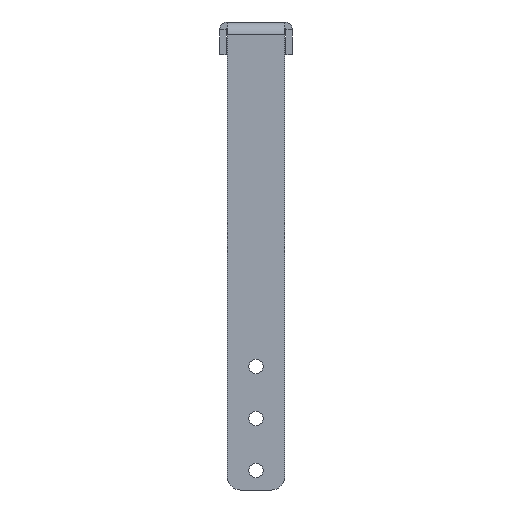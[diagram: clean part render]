
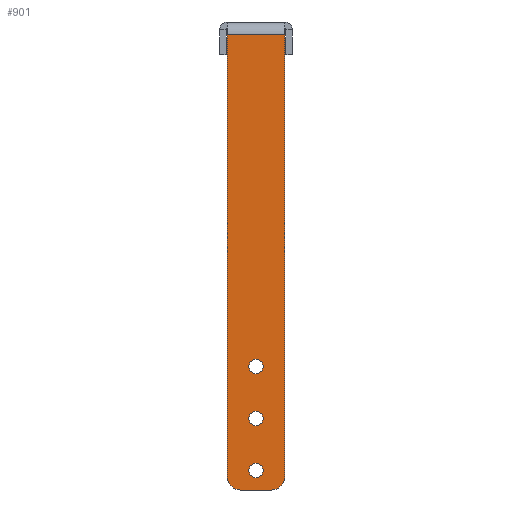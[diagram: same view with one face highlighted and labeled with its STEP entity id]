
A CAD part, left-side view. The second image highlights one B-rep face of the part: STEP entity #901.
In plain terms, the highlighted planar face has unit normal (-1, 0, 0).
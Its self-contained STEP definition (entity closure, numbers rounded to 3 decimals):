
#23=FACE_BOUND('',#170,.T.);
#24=FACE_BOUND('',#171,.T.);
#25=FACE_BOUND('',#172,.T.);
#59=PLANE('',#1017);
#109=FACE_OUTER_BOUND('',#169,.T.);
#169=EDGE_LOOP('',(#754,#755,#756,#757,#758,#759));
#170=EDGE_LOOP('',(#760));
#171=EDGE_LOOP('',(#761));
#172=EDGE_LOOP('',(#762));
#198=CIRCLE('',#967,5.5);
#202=CIRCLE('',#973,5.5);
#206=CIRCLE('',#979,5.5);
#208=CIRCLE('',#982,10.);
#211=CIRCLE('',#988,10.);
#269=LINE('',#1433,#342);
#275=LINE('',#1450,#348);
#293=LINE('',#1500,#366);
#295=LINE('',#1509,#368);
#342=VECTOR('',#1182,10.);
#348=VECTOR('',#1198,10.);
#366=VECTOR('',#1256,10.);
#368=VECTOR('',#1272,10.);
#402=VERTEX_POINT('',#1390);
#406=VERTEX_POINT('',#1402);
#410=VERTEX_POINT('',#1414);
#412=VERTEX_POINT('',#1420);
#413=VERTEX_POINT('',#1421);
#417=VERTEX_POINT('',#1431);
#421=VERTEX_POINT('',#1443);
#422=VERTEX_POINT('',#1444);
#423=VERTEX_POINT('',#1449);
#488=EDGE_CURVE('',#402,#402,#198,.T.);
#494=EDGE_CURVE('',#406,#406,#202,.T.);
#500=EDGE_CURVE('',#410,#410,#206,.T.);
#503=EDGE_CURVE('',#412,#413,#208,.T.);
#509=EDGE_CURVE('',#417,#412,#269,.T.);
#514=EDGE_CURVE('',#421,#422,#211,.T.);
#517=EDGE_CURVE('',#422,#423,#275,.T.);
#543=EDGE_CURVE('',#417,#423,#293,.T.);
#549=EDGE_CURVE('',#413,#421,#295,.T.);
#754=ORIENTED_EDGE('',*,*,#503,.F.);
#755=ORIENTED_EDGE('',*,*,#509,.F.);
#756=ORIENTED_EDGE('',*,*,#543,.T.);
#757=ORIENTED_EDGE('',*,*,#517,.F.);
#758=ORIENTED_EDGE('',*,*,#514,.F.);
#759=ORIENTED_EDGE('',*,*,#549,.F.);
#760=ORIENTED_EDGE('',*,*,#488,.T.);
#761=ORIENTED_EDGE('',*,*,#494,.T.);
#762=ORIENTED_EDGE('',*,*,#500,.T.);
#901=ADVANCED_FACE('',(#109,#23,#24,#25),#59,.T.);
#967=AXIS2_PLACEMENT_3D('',#1391,#1137,#1138);
#973=AXIS2_PLACEMENT_3D('',#1403,#1151,#1152);
#979=AXIS2_PLACEMENT_3D('',#1415,#1165,#1166);
#982=AXIS2_PLACEMENT_3D('',#1422,#1172,#1173);
#988=AXIS2_PLACEMENT_3D('',#1445,#1192,#1193);
#1017=AXIS2_PLACEMENT_3D('',#1510,#1273,#1274);
#1137=DIRECTION('center_axis',(1.,0.,0.));
#1138=DIRECTION('ref_axis',(0.,0.,
1.));
#1151=DIRECTION('center_axis',(1.,0.,0.));
#1152=DIRECTION('ref_axis',(0.,0.,
1.));
#1165=DIRECTION('center_axis',(1.,0.,0.));
#1166=DIRECTION('ref_axis',(0.,0.,
1.));
#1172=DIRECTION('center_axis',(1.,0.,0.));
#1173=DIRECTION('ref_axis',(0.,-0.707,-0.707));
#1182=DIRECTION('',(0.,0.,-1.));
#1192=DIRECTION('center_axis',(1.,0.,0.));
#1193=DIRECTION('ref_axis',(0.,0.707,-0.707));
#1198=DIRECTION('',(0.,0.,1.));
#1256=DIRECTION('',(0.,1.,0.));
#1272=DIRECTION('',(0.,1.,0.));
#1273=DIRECTION('center_axis',(-1.,0.,0.));
#1274=DIRECTION('ref_axis',(0.,0.,1.));
#1390=CARTESIAN_POINT('',(-367.,0.,-345.5));
#1391=CARTESIAN_POINT('Origin',(-367.,0.,
-340.));
#1402=CARTESIAN_POINT('',(-367.,0.,-265.5));
#1403=CARTESIAN_POINT('Origin',(-367.,0.,-260.));
#1414=CARTESIAN_POINT('',(-367.,0.,-305.5));
#1415=CARTESIAN_POINT('Origin',(-367.,0.,-300.));
#1420=CARTESIAN_POINT('',(-367.,-22.,-345.));
#1421=CARTESIAN_POINT('',(-367.,-12.,-355.));
#1422=CARTESIAN_POINT('Origin',(-367.,-12.,-345.));
#1431=CARTESIAN_POINT('',(-367.,-22.,-5.));
#1433=CARTESIAN_POINT('',(-367.,-22.,-5.));
#1443=CARTESIAN_POINT('',(-367.,12.,-355.));
#1444=CARTESIAN_POINT('',(-367.,22.,-345.));
#1445=CARTESIAN_POINT('Origin',(-367.,12.,-345.));
#1449=CARTESIAN_POINT('',(-367.,22.,-5.));
#1450=CARTESIAN_POINT('',(-367.,22.,6.31));
#1500=CARTESIAN_POINT('',(-367.,0.,-5.));
#1509=CARTESIAN_POINT('',(-367.,-22.,-355.));
#1510=CARTESIAN_POINT('Origin',(-367.,0.,-174.345));
